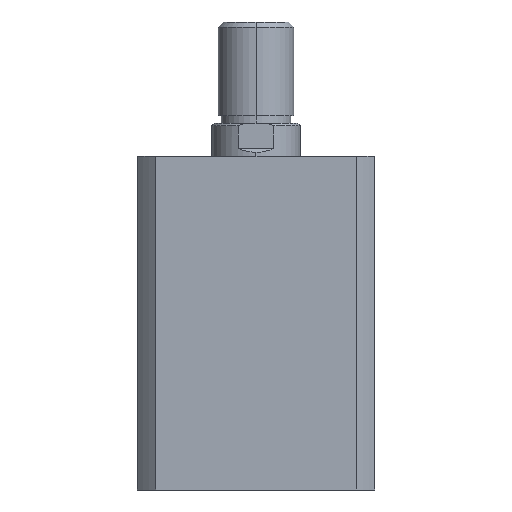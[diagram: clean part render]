
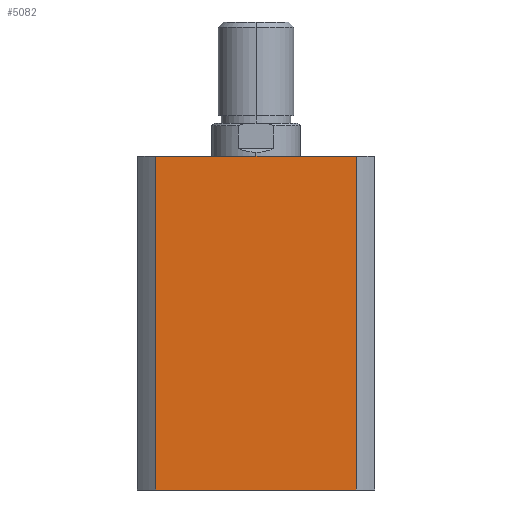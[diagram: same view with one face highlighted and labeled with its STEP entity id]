
A CAD part, left-side view. The second image highlights one B-rep face of the part: STEP entity #5082.
In plain terms, the highlighted planar face has unit normal (-1, 0, 0).
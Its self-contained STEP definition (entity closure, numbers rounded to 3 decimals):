
#361 = CARTESIAN_POINT ( 'NONE',  ( -47., 39.664, 132. ) ) ;
#362 = CARTESIAN_POINT ( 'NONE',  ( -47., -39.664, 132. ) ) ;
#381 = CARTESIAN_POINT ( 'NONE',  ( -47., 39.664, 0. ) ) ;
#382 = CARTESIAN_POINT ( 'NONE',  ( -47., -39.664, 0. ) ) ;
#623 = DIRECTION ( 'NONE',  ( 0., 0., -1. ) ) ;
#630 = CARTESIAN_POINT ( 'NONE',  ( -47., 39.664, 132. ) ) ;
#632 = CARTESIAN_POINT ( 'NONE',  ( -47., 0., 0. ) ) ;
#637 = DIRECTION ( 'NONE',  ( 0., -1., 0. ) ) ;
#638 = CARTESIAN_POINT ( 'NONE',  ( -47., -39.664, 132. ) ) ;
#640 = DIRECTION ( 'NONE',  ( 0., 0., -1. ) ) ;
#1147 = EDGE_CURVE ( 'NONE', #2776, #2777, #3584, .T. ) ;
#1180 = EDGE_CURVE ( 'NONE', #2776, #2796, #3626, .T. ) ;
#1181 = EDGE_CURVE ( 'NONE', #2796, #2797, #3624, .T. ) ;
#1182 = EDGE_CURVE ( 'NONE', #2777, #2797, #3629, .T. ) ;
#1949 = VECTOR ( 'NONE', #640, 1000. ) ;
#2776 = VERTEX_POINT ( 'NONE', #361 ) ;
#2777 = VERTEX_POINT ( 'NONE', #362 ) ;
#2796 = VERTEX_POINT ( 'NONE', #381 ) ;
#2797 = VERTEX_POINT ( 'NONE', #382 ) ;
#3025 = ORIENTED_EDGE ( 'NONE', *, *, #1181, .T. ) ;
#3026 = ORIENTED_EDGE ( 'NONE', *, *, #1182, .F. ) ;
#3027 = ORIENTED_EDGE ( 'NONE', *, *, #1147, .F. ) ;
#3028 = ORIENTED_EDGE ( 'NONE', *, *, #1180, .T. ) ;
#3371 = EDGE_LOOP ( 'NONE', ( #3025, #3026, #3027, #3028 ) ) ;
#3584 = LINE ( 'NONE', #4755, #3586 ) ;
#3586 = VECTOR ( 'NONE', #4762, 1000. ) ;
#3624 = LINE ( 'NONE', #632, #3630 ) ;
#3626 = LINE ( 'NONE', #630, #3628 ) ;
#3628 = VECTOR ( 'NONE', #623, 1000. ) ;
#3629 = LINE ( 'NONE', #638, #1949 ) ;
#3630 = VECTOR ( 'NONE', #637, 1000. ) ;
#3742 = CARTESIAN_POINT ( 'NONE',  ( -47., 0., 132. ) ) ;
#3745 = PLANE ( 'NONE',  #4934 ) ;
#3747 = DIRECTION ( 'NONE',  ( 1., 0., 0. ) ) ;
#3748 = DIRECTION ( 'NONE',  ( 0., 0., -1. ) ) ;
#4438 = FACE_OUTER_BOUND ( 'NONE', #3371, .T. ) ;
#4755 = CARTESIAN_POINT ( 'NONE',  ( -47., 0., 132. ) ) ;
#4762 = DIRECTION ( 'NONE',  ( 0., -1., 0. ) ) ;
#4934 = AXIS2_PLACEMENT_3D ( 'NONE', #3742, #3747, #3748 ) ;
#5082 = ADVANCED_FACE ( 'NONE', ( #4438 ), #3745, .F. ) ;
